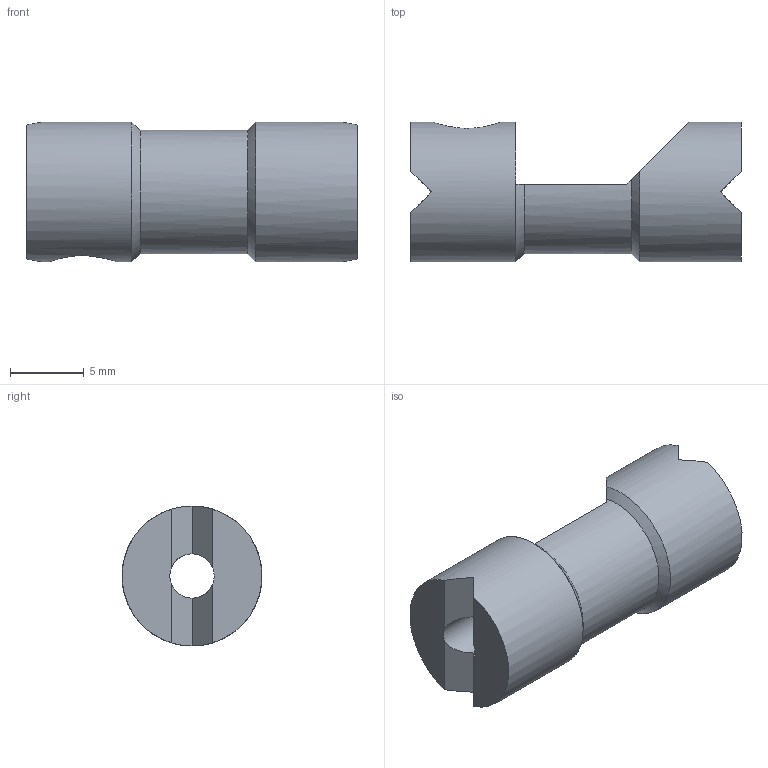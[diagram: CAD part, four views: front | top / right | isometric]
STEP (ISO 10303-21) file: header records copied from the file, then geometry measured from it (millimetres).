
FILE_DESCRIPTION(/* description */ (''),/* implementation_level */ '2;1');
FILE_NAME(/* name */ 'D:\~~GatCad\Ivan''s Printable Fire Control Group (AR15, FGC-9, etc)\STEP\Drum V1.3.stp',/* time_stamp */ '2021-01-17T14:03:26-06:00',/* author */ ('johne'),/* organization */ (''),/* preprocessor_version */ 'ST-DEVELOPER v18',/* originating_system */ 'Autodesk Inventor 2020',/* authorisation */ '');
FILE_SCHEMA (('AUTOMOTIVE_DESIGN { 1 0 10303 214 3 1 1 }'));
Length unit declared in the file: millimetre
Products named in the file (1): Fire Control Group Pin
Bounding box: 22.35 x 9.47 x 9.47 mm (x, y, z)
Volume: 1030.9 mm3; surface area: 949.8 mm2
Topology: 1 solids, 2 shells, 36 faces, 104 edges, 68 vertices
Faces by surface type: plane 16, cone 6, bspline 6, cylinder 4, sphere 3, torus 1
Full cylindrical faces by diameter (mm): 3 x1, 9.474 x2
Entity records: 1565 total; most frequent: CARTESIAN_POINT 599, ORIENTED_EDGE 202, DIRECTION 191, EDGE_CURVE 101, AXIS2_PLACEMENT_3D 83, VERTEX_POINT 68, EDGE_LOOP 39, FACE_OUTER_BOUND 36
